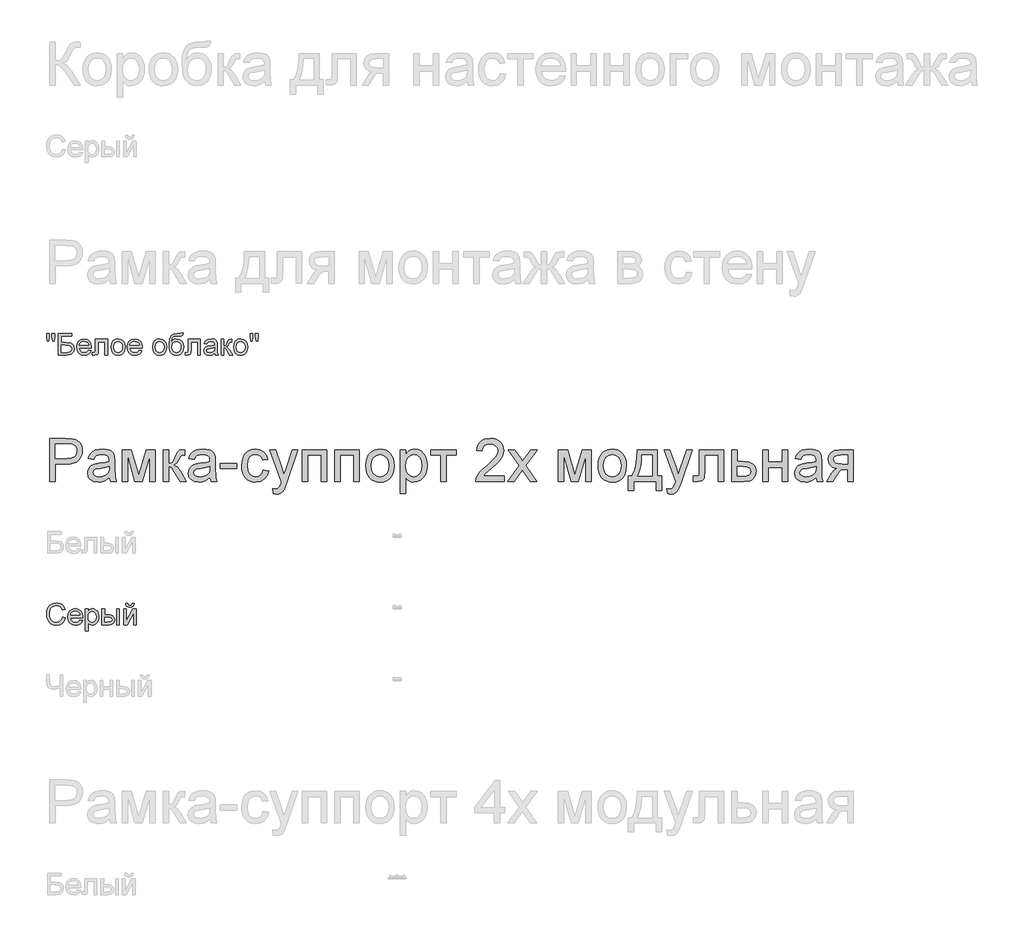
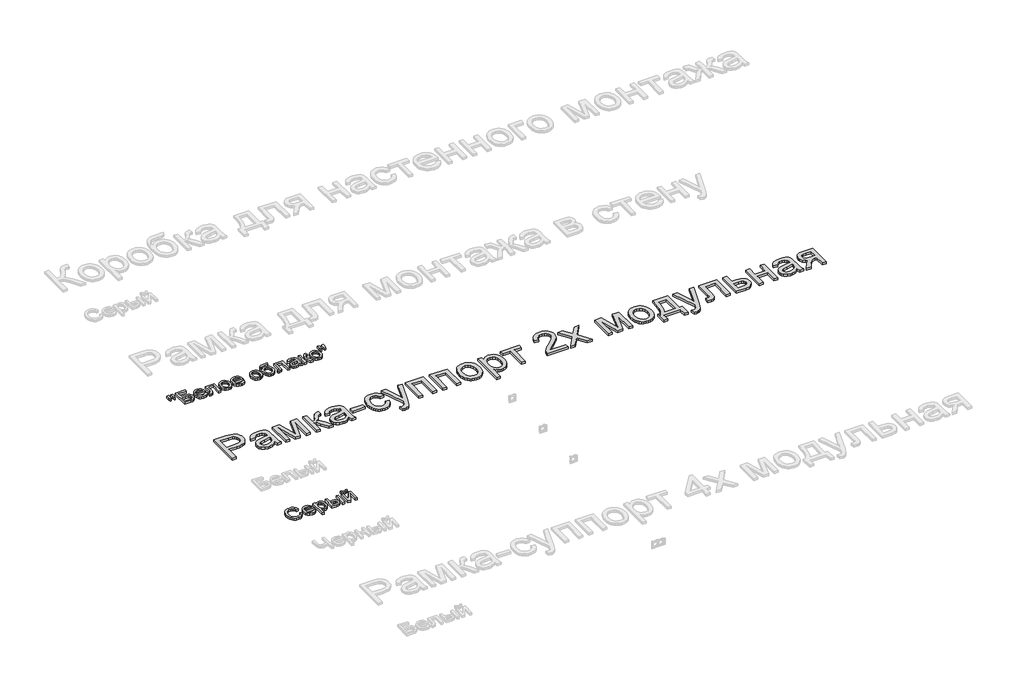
# One storey, part 44 of 168: 3 proxies.
"""IFC4 building model written with IfcOpenShell, lengths in millimetres."""

from ifc_helpers import new_model, si_unit, origin, origin_with_axes, place, context, project, spatial, polyline, outline, extrude, element, save

model = new_model("IFC4")

# Units and contexts
model_context = context("Model", 3, world=origin())
ifc_project = project(units=[si_unit("LENGTHUNIT", "METRE", prefix="MILLI")], contexts=[model_context])

# Site, building, storey
site = spatial("IfcSite", under=ifc_project)
building = spatial("IfcBuilding", under=site)
storey = spatial("IfcBuildingStorey", under=building, Name="Этаж 01", Elevation=0.0)

# Proxies
placement = place(None, origin())
element("IfcBuildingElementProxy", 1, Name="300 мм Arial 2", ObjectType="300 мм Arial 2", at=placement, inside=storey, context=model_context, shape_type="SweptSolid", body=[
    extrude(outline(polyline([(32899.0945017, -33733.1726656), (32899.0945017, -33431.8037351), (33010.7834754, -33431.8037351), (33055.8122316, -33434.6732147), (33075.8893915, -33440.0350947), (33092.4164901, -33448.7630951), (33105.7246213, -33461.2526888), (33116.1448788, -33477.8993491), (33122.8771193, -33497.5350506), (33125.1211995, -33518.991768), (33123.6059855, -33537.4916338), (33119.0603436, -33554.5107746), (33111.4842738, -33570.0491904), (33100.877776, -33584.1068811), (33086.3165468, -33595.7595433), (33066.8762826, -33604.0828734), (33042.5569835, -33609.0768715), (33013.3586494, -33610.7415376), (32936.765618, -33610.7415376), (32936.765618, -33733.1726656), (32899.0945017, -33733.1726656)]), holes=[polyline([(32936.765618, -33573.0704213), (33015.5659413, -33573.0704213), (33048.9696265, -33569.6123305), (33071.0425462, -33559.2380582), (33083.3481989, -33542.591398), (33087.4500832, -33520.3161431), (33085.0312591, -33503.3935714), (33077.7747867, -33489.11975), (33066.581977, -33478.3775957), (33052.3541408, -33472.0500254), (33014.6830245, -33469.4748514), (32936.765618, -33469.4748514), (32936.765618, -33573.0704213)])]), origin_with_axes(), (0.0, 0.0, 1.0), 20.0),
    extrude(outline(polyline([(33313.476781, -33704.9193283), (33295.4781544, -33720.351978), (33276.9460989, -33730.4503388), (33257.4575502, -33736.023751), (33236.589444, -33737.8815551), (33205.1079423, -33733.4117888), (33181.8853914, -33720.0024901), (33167.5655847, -33699.6402217), (33162.7923158, -33674.3115463), (33164.5949376, -33658.6949556), (33170.0028029, -33644.5131047), (33178.3445271, -33632.3729989), (33188.9487257, -33622.8816434), (33215.3258647, -33610.5208084), (33247.9202095, -33604.8554256), (33286.4374544, -33598.8957373), (33313.2560518, -33591.9059794), (33313.476781, -33583.5182699), (33310.883213, -33566.7060627), (33303.1025088, -33555.7063911), (33285.7016904, -33547.5394108), (33261.4582669, -33544.817084), (33239.0174652, -33546.6289028), (33223.3456922, -33552.0643593), (33212.6587202, -33562.1167348), (33205.1723216, -33577.7793108), (33167.5012053, -33573.0704213), (33174.0403078, -33552.4690295), (33183.7983777, -33536.2822217), (33197.685923, -33523.9029926), (33216.6134517, -33514.7243368), (33239.7624262, -33509.04056), (33266.3143092, -33507.1459677), (33291.7809404, -33508.8198308), (33311.9684648, -33513.84142), (33327.1895824, -33521.392198), (33337.7569927, -33530.6536272), (33344.7651447, -33542.1039543), (33349.3084874, -33556.2214259), (33351.1478973, -33589.1836526), (33351.1478973, -33636.0518188), (33353.0608837, -33701.4980258), (33360.5656764, -33733.1726656), (33322.8945601, -33733.1726656), (33313.476781, -33704.9193283)]), holes=[polyline([(33313.476781, -33629.5770957), (33252.7026754, -33641.1285904), (33220.2922716, -33647.2354315), (33205.61378, -33657.1682453), (33200.4634321, -33671.662796), (33203.2685323, -33682.8648027), (33211.683833, -33692.0434585), (33225.525393, -33698.1686937), (33244.6092715, -33700.2104388), (33264.8427813, -33697.9571616), (33282.7218462, -33691.1973299), (33297.2163968, -33681.2369249), (33307.2963635, -33669.3819276), (33311.7661297, -33657.1682453), (33313.2560518, -33640.2456736), (33313.476781, -33629.5770957)])]), origin_with_axes(), (0.0, 0.0, 1.0), 20.0),
    extrude(outline(polyline([(33402.9456823, -33511.8548573), (33467.7664898, -33511.8548573), (33517.7248647, -33689.0268261), (33571.5827888, -33511.8548573), (33633.6812696, -33511.8548573), (33633.6812696, -33733.1726656), (33596.0101533, -33733.1726656), (33596.0101533, -33554.9706271), (33541.8579236, -33733.1726656), (33492.4145835, -33733.1726656), (33440.6167986, -33546.4357648), (33440.6167986, -33733.1726656), (33402.9456823, -33733.1726656), (33402.9456823, -33511.8548573)])), origin_with_axes(), (0.0, 0.0, 1.0), 20.0),
    extrude(outline(polyline([(33690.1879441, -33511.8548573), (33727.8590604, -33511.8548573), (33727.8590604, -33606.032648), (33743.1813455, -33604.3403908), (33753.0957653, -33599.2636193), (33761.8697508, -33586.0198675), (33773.7707334, -33559.8266694), (33790.9508226, -33525.7975849), (33806.1075608, -33514.7243368), (33833.6619222, -33511.8548573), (33840.8724093, -33511.8548573), (33840.8724093, -33549.7467028), (33830.7188662, -33549.5259736), (33812.3247665, -33553.4990991), (33799.3753203, -33578.2943456), (33784.1817939, -33605.112943), (33762.8814263, -33618.2463303), (33774.8191971, -33623.5484295), (33786.6466032, -33632.9064278), (33809.9703217, -33663.7901213), (33850.2901884, -33733.1726656), (33807.4687241, -33733.1726656), (33767.9581979, -33665.2616492), (33748.0925701, -33636.5300654), (33738.8035497, -33631.3153381), (33727.8590604, -33629.5770957), (33727.8590604, -33733.1726656), (33690.1879441, -33733.1726656), (33690.1879441, -33511.8548573)])), origin_with_axes(), (0.0, 0.0, 1.0), 20.0),
    extrude(outline(polyline([(34015.1013222, -33704.9193283), (33997.1026956, -33720.351978), (33978.5706401, -33730.4503388), (33959.0820914, -33736.023751), (33938.2139852, -33737.8815551), (33906.7324835, -33733.4117888), (33883.5099326, -33720.0024901), (33869.1901259, -33699.6402217), (33864.416857, -33674.3115463), (33866.2194788, -33658.6949556), (33871.6273441, -33644.5131047), (33879.9690683, -33632.3729989), (33890.5732669, -33622.8816434), (33916.9504059, -33610.5208084), (33949.5447507, -33604.8554256), (33988.0619956, -33598.8957373), (34014.880593, -33591.9059794), (34015.1013222, -33583.5182699), (34012.5077542, -33566.7060627), (34004.72705, -33555.7063911), (33987.3262316, -33547.5394108), (33963.0828081, -33544.817084), (33940.6420064, -33546.6289028), (33924.9702334, -33552.0643593), (33914.2832614, -33562.1167348), (33906.7968628, -33577.7793108), (33869.1257465, -33573.0704213), (33875.664849, -33552.4690295), (33885.4229189, -33536.2822217), (33899.3104642, -33523.9029926), (33918.2379929, -33514.7243368), (33941.3869674, -33509.04056), (33967.9388504, -33507.1459677), (33993.4054816, -33508.8198308), (34013.593006, -33513.84142), (34028.8141236, -33521.392198), (34039.3815339, -33530.6536272), (34046.3896859, -33542.1039543), (34050.9330286, -33556.2214259), (34052.7724385, -33589.1836526), (34052.7724385, -33636.0518188), (34054.6854249, -33701.4980258), (34062.1902176, -33733.1726656), (34024.5191013, -33733.1726656), (34015.1013222, -33704.9193283)]), holes=[polyline([(34015.1013222, -33629.5770957), (33954.3272166, -33641.1285904), (33921.9168128, -33647.2354315), (33907.2383212, -33657.1682453), (33902.0879733, -33671.662796), (33904.8930735, -33682.8648027), (33913.3083742, -33692.0434585), (33927.1499342, -33698.1686937), (33946.2338127, -33700.2104388), (33966.4673225, -33697.9571616), (33984.3463874, -33691.1973299), (33998.840938, -33681.2369249), (34008.9209047, -33669.3819276), (34013.3906709, -33657.1682453), (34014.880593, -33640.2456736), (34015.1013222, -33629.5770957)])]), origin_with_axes(), (0.0, 0.0, 1.0), 20.0),
    extrude(outline(polyline([(34085.7346653, -33643.7037643), (34085.7346653, -33606.032648), (34203.4569038, -33606.032648), (34203.4569038, -33643.7037643), (34085.7346653, -33643.7037643)])), origin_with_axes(), (0.0, 0.0, 1.0), 20.0),
    extrude(outline(polyline([(34387.1035957, -33653.1215434), (34424.7747121, -33657.8304329), (34414.2716811, -33691.3352857), (34394.5348121, -33716.654764), (34367.421909, -33732.5748573), (34334.790776, -33737.8815551), (34313.6628532, -33736.0306488), (34294.7192297, -33730.4779299), (34277.9599056, -33721.2233985), (34263.3848808, -33708.2670545), (34251.587365, -33691.8526197), (34243.1605681, -33672.223816), (34238.1044899, -33649.3806434), (34236.4191305, -33623.3231018), (34239.2978071, -33589.799855), (34247.933837, -33560.7463744), (34262.4651758, -33537.2847002), (34283.0297793, -33520.5368723), (34307.6318877, -33510.4936939), (34334.2757412, -33507.1459677), (34366.1067309, -33511.7444927), (34391.5549679, -33525.5400675), (34409.8111119, -33547.7969282), (34420.0658225, -33577.7793108), (34382.3947062, -33582.4882003), (34375.5612982, -33566.0530722), (34364.9203114, -33554.2716513), (34351.0603573, -33547.1807258), (34334.5700468, -33544.817084), (34310.2254558, -33549.4707913), (34290.902454, -33563.431913), (34278.2932986, -33587.4546073), (34274.0902468, -33622.2930322), (34278.2013281, -33657.6005067), (34290.534572, -33681.7059744), (34309.5080859, -33695.5843227), (34333.5399773, -33700.2104388), (34353.04692, -33697.3225651), (34369.0405898, -33688.6589441), (34380.6748579, -33673.9988466), (34387.1035957, -33653.1215434)])), origin_with_axes(), (0.0, 0.0, 1.0), 20.0),
    extrude(outline(polyline([(34457.7369388, -33817.9326772), (34453.0280493, -33781.6595125), (34472.157913, -33784.9704505), (34490.036978, -33780.8133839), (34500.9998615, -33769.2251011), (34511.3005573, -33741.4867986), (34514.2436133, -33732.3633252), (34434.1924911, -33511.8548573), (34473.9237466, -33511.8548573), (34516.3773289, -33634.7274436), (34531.1661851, -33683.8764782), (34545.9550413, -33640.4664028), (34589.5858459, -33511.8548573), (34629.0227958, -33511.8548573), (34551.988306, -33738.4701663), (34531.9755254, -33787.6192008), (34521.7300119, -33803.3093679), (34510.1233349, -33814.1802809), (34496.6404598, -33820.5262453), (34480.7663517, -33822.6415668), (34457.7369388, -33817.9326772)])), origin_with_axes(), (0.0, 0.0, 1.0), 20.0),
    extrude(outline(polyline([(34660.219189, -33511.8548573), (34829.7392123, -33511.8548573), (34829.7392123, -33733.1726656), (34792.068096, -33733.1726656), (34792.068096, -33549.5259736), (34697.8903053, -33549.5259736), (34697.8903053, -33733.1726656), (34660.219189, -33733.1726656), (34660.219189, -33511.8548573)])), origin_with_axes(), (0.0, 0.0, 1.0), 20.0),
    extrude(outline(polyline([(34886.2458868, -33511.8548573), (35055.7659102, -33511.8548573), (35055.7659102, -33733.1726656), (35018.0947939, -33733.1726656), (35018.0947939, -33549.5259736), (34923.9170031, -33549.5259736), (34923.9170031, -33733.1726656), (34886.2458868, -33733.1726656), (34886.2458868, -33511.8548573)])), origin_with_axes(), (0.0, 0.0, 1.0), 20.0),
    extrude(outline(polyline([(35102.8548056, -33622.5137614), (35104.8919521, -33593.8511555), (35111.0033918, -33569.152478), (35121.1891245, -33548.417729), (35135.4491503, -33531.6469086), (35149.8057452, -33520.927747), (35165.6522621, -33513.2712029), (35182.9887012, -33508.6772765), (35201.8150623, -33507.1459677), (35222.5980957, -33509.0106696), (35241.3899679, -33514.6047752), (35258.1906788, -33523.9282845), (35273.0002283, -33536.9811975), (35285.0874511, -33553.3220559), (35293.7211817, -33572.5094012), (35298.9014201, -33594.5432335), (35300.6281662, -33619.4235526), (35297.5747456, -33657.480945), (35288.4144839, -33686.4516522), (35273.4140956, -33708.1474928), (35252.840295, -33724.3802859), (35228.4037335, -33734.5062378), (35201.8150623, -33737.8815551), (35180.7285262, -33736.023751), (35161.76191, -33730.4503388), (35144.9152139, -33721.1613184), (35130.1884378, -33708.1566899), (35118.2299737, -33691.6571824), (35109.6882136, -33671.8835252), (35104.5631576, -33648.8357182), (35102.8548056, -33622.5137614)]), holes=[polyline([(35140.5259219, -33622.440185), (35144.8853235, -33656.5336489), (35157.9635284, -33680.8230576), (35177.6452152, -33695.3635935), (35201.8150623, -33700.2104388), (35225.8745448, -33695.3360023), (35245.5194433, -33680.712693), (35258.5976482, -33656.1013876), (35262.9570499, -33621.2629626), (35258.5700571, -33588.1627801), (35245.4090787, -33564.2044652), (35225.736589, -33549.6639293), (35201.8150623, -33544.817084), (35177.6452152, -33549.6455352), (35157.9635284, -33564.1308888), (35144.8853235, -33588.3651152), (35140.5259219, -33622.440185)])]), origin_with_axes(), (0.0, 0.0, 1.0), 20.0),
    extrude(outline(polyline([(35343.008172, -33817.9326772), (35343.008172, -33511.8548573), (35380.6792883, -33511.8548573), (35380.6792883, -33548.7902096), (35392.966547, -33530.5708538), (35406.7253336, -33517.5570282), (35422.7649886, -33509.7487328), (35441.8948523, -33507.1459677), (35467.3706805, -33510.7879995), (35489.6459353, -33521.7140947), (35507.7825177, -33539.2620659), (35520.8423285, -33562.7697254), (35528.7333973, -33590.5264219), (35531.3637535, -33620.8215042), (35528.3931064, -33653.03877), (35519.4811651, -33681.8531272), (35504.9130381, -33705.8022451), (35484.973834, -33723.4237927), (35461.751283, -33734.2671145), (35437.3331156, -33737.8815551), (35420.0150707, -33735.462731), (35404.5548298, -33728.2062586), (35391.320275, -33717.2525722), (35380.6792883, -33703.7421059), (35380.6792883, -33817.9326772), (35343.008172, -33817.9326772)]), holes=[polyline([(35380.6792883, -33624.279595), (35384.7535814, -33658.0511621), (35396.9764607, -33681.6691862), (35415.0118755, -33695.5751256), (35436.5237752, -33700.2104388), (35458.3851628, -33695.4095787), (35476.8804301, -33681.0069986), (35489.4895854, -33656.5244519), (35493.6926372, -33621.4836918), (35489.590753, -33587.8960657), (35477.2851003, -33563.9469478), (35459.2772766, -33549.59955), (35438.0688796, -33544.817084), (35416.7777091, -33549.9030526), (35398.0801067, -33565.1609584), (35385.0294929, -33590.1125547), (35380.6792883, -33624.279595)])]), origin_with_axes(), (0.0, 0.0, 1.0), 20.0),
    extrude(outline(polyline([(35554.9082012, -33511.8548573), (35733.8460037, -33511.8548573), (35733.8460037, -33549.5259736), (35663.2126606, -33549.5259736), (35663.2126606, -33733.1726656), (35625.5415443, -33733.1726656), (35625.5415443, -33549.5259736), (35554.9082012, -33549.5259736), (35554.9082012, -33511.8548573)])), origin_with_axes(), (0.0, 0.0, 1.0), 20.0),
    extrude(outline(polyline([(36068.1771609, -33695.5015492), (36068.1771609, -33733.1726656), (35870.4038003, -33733.1726656), (35874.4505022, -33707.2001967), (35883.7395226, -33686.9023076), (35897.3327623, -33667.2114238), (35916.996055, -33646.600835), (35944.4952341, -33623.543831), (35985.1461946, -33587.4362132), (36009.5367709, -33560.7831626), (36021.732059, -33539.1517013), (36025.7971551, -33518.1088512), (36021.9619853, -33499.2457019), (36010.4564759, -33483.5647318), (35992.7705489, -33472.9973215), (35970.3941266, -33469.4748514), (35946.8956641, -33472.9145481), (35928.6395201, -33483.233638), (35916.8580992, -33499.6227809), (35912.7838061, -33521.2726363), (35875.1126898, -33516.5637468), (35884.2453604, -33480.1250352), (35892.791719, -33465.5890978), (35903.9914265, -33453.5087728), (35917.5869654, -33444.0128188), (35933.3208185, -33437.2299945), (35971.203467, -33431.8037351), (35991.3932907, -33433.3120513), (36009.3620269, -33437.8369998), (36025.1096756, -33445.3785807), (36038.6362367, -33455.936794), (36049.5002519, -33468.7298904), (36057.2602627, -33482.9761206), (36061.9162692, -33498.6754848), (36063.4682714, -33515.8279828), (36061.7944083, -33533.8450035), (36056.7728191, -33551.5493245), (36047.8608777, -33569.5571482), (36034.5159584, -33588.4846768), (36013.243182, -33611.0818284), (35980.5476697, -33640.0985208), (35937.2111706, -33676.3348973), (35920.2150224, -33695.5015492), (36068.1771609, -33695.5015492)])), origin_with_axes(), (0.0, 0.0, 1.0), 20.0),
    extrude(outline(polyline([(36091.7216086, -33733.1726656), (36172.2141891, -33621.9251502), (36096.4304981, -33511.8548573), (36141.7535599, -33511.8548573), (36178.3210303, -33564.8298646), (36195.3907548, -33589.8458402), (36210.179611, -33569.3916013), (36251.8238529, -33511.8548573), (36297.1469147, -33511.8548573), (36217.537251, -33621.9251502), (36294.2038587, -33733.1726656), (36248.8807969, -33733.1726656), (36202.7483947, -33666.2917188), (36194.2871089, -33654.0780366), (36137.0446704, -33733.1726656), (36091.7216086, -33733.1726656)])), origin_with_axes(), (0.0, 0.0, 1.0), 20.0),
    extrude(outline(polyline([(36444.888324, -33511.8548573), (36509.7091315, -33511.8548573), (36559.6675065, -33689.0268261), (36613.5254306, -33511.8548573), (36675.6239113, -33511.8548573), (36675.6239113, -33733.1726656), (36637.952795, -33733.1726656), (36637.952795, -33554.9706271), (36583.8005653, -33733.1726656), (36534.3572252, -33733.1726656), (36482.5594403, -33546.4357648), (36482.5594403, -33733.1726656), (36444.888324, -33733.1726656), (36444.888324, -33511.8548573)])), origin_with_axes(), (0.0, 0.0, 1.0), 20.0),
    extrude(outline(polyline([(36722.7128067, -33622.5137614), (36724.7499533, -33593.8511555), (36730.8613929, -33569.152478), (36741.0471257, -33548.417729), (36755.3071515, -33531.6469086), (36769.6637464, -33520.927747), (36785.5102633, -33513.2712029), (36802.8467023, -33508.6772765), (36821.6730634, -33507.1459677), (36842.4560969, -33509.0106696), (36861.2479691, -33514.6047752), (36878.0486799, -33523.9282845), (36892.8582295, -33536.9811975), (36904.9454523, -33553.3220559), (36913.5791829, -33572.5094012), (36918.7594212, -33594.5432335), (36920.4861673, -33619.4235526), (36917.4327468, -33657.480945), (36908.2724851, -33686.4516522), (36893.2720967, -33708.1474928), (36872.6982962, -33724.3802859), (36848.2617346, -33734.5062378), (36821.6730634, -33737.8815551), (36800.5865273, -33736.023751), (36781.6199112, -33730.4503388), (36764.7732151, -33721.1613184), (36750.046439, -33708.1566899), (36738.0879749, -33691.6571824), (36729.5462148, -33671.8835252), (36724.4211587, -33648.8357182), (36722.7128067, -33622.5137614)]), holes=[polyline([(36760.383923, -33622.440185), (36764.7433247, -33656.5336489), (36777.8215296, -33680.8230576), (36797.5032163, -33695.3635935), (36821.6730634, -33700.2104388), (36845.7325459, -33695.3360023), (36865.3774445, -33680.712693), (36878.4556494, -33656.1013876), (36882.815051, -33621.2629626), (36878.4280582, -33588.1627801), (36865.2670799, -33564.2044652), (36845.5945902, -33549.6639293), (36821.6730634, -33544.817084), (36797.5032163, -33549.6455352), (36777.8215296, -33564.1308888), (36764.7433247, -33588.3651152), (36760.383923, -33622.440185)])]), origin_with_axes(), (0.0, 0.0, 1.0), 20.0),
    extrude(outline(polyline([(36995.8283999, -33511.8548573), (37137.0950861, -33511.8548573), (37137.0950861, -33695.5015492), (37165.3484233, -33695.5015492), (37165.3484233, -33794.3882295), (37127.677307, -33794.3882295), (37127.677307, -33733.1726656), (36972.2839523, -33733.1726656), (36972.2839523, -33794.3882295), (36934.6128359, -33794.3882295), (36934.6128359, -33695.5015492), (36958.1572836, -33695.5015492), (36975.2729935, -33664.5718705), (36987.2567495, -33623.6541956), (36994.1085516, -33572.7485245), (36995.8283999, -33511.8548573)]), holes=[polyline([(37028.7906267, -33549.5259736), (37025.700418, -33595.6491787), (37019.9614588, -33635.352843), (37011.5737493, -33668.6369665), (37000.5372895, -33695.5015492), (37099.4239698, -33695.5015492), (37099.4239698, -33549.5259736), (37028.7906267, -33549.5259736)])]), origin_with_axes(), (0.0, 0.0, 1.0), 20.0),
    extrude(outline(polyline([(37207.7284292, -33817.9326772), (37203.0195396, -33781.6595125), (37222.1494034, -33784.9704505), (37240.0284683, -33780.8133839), (37250.9913518, -33769.2251011), (37261.2920477, -33741.4867986), (37264.2351036, -33732.3633252), (37184.1839815, -33511.8548573), (37223.915237, -33511.8548573), (37266.3688192, -33634.7274436), (37281.1576754, -33683.8764782), (37295.9465316, -33640.4664028), (37339.5773362, -33511.8548573), (37379.0142861, -33511.8548573), (37301.9797963, -33738.4701663), (37281.9670158, -33787.6192008), (37271.7215022, -33803.3093679), (37260.1148253, -33814.1802809), (37246.6319502, -33820.5262453), (37230.7578421, -33822.6415668), (37207.7284292, -33817.9326772)])), origin_with_axes(), (0.0, 0.0, 1.0), 20.0),
    extrude(outline(polyline([(37429.0462375, -33511.8548573), (37598.5662608, -33511.8548573), (37598.5662608, -33732.9519364), (37560.8951445, -33732.9519364), (37560.8951445, -33549.5259736), (37466.7173538, -33549.5259736), (37466.7173538, -33655.1081062), (37464.178968, -33703.8156823), (37459.4240932, -33714.8429451), (37450.2362404, -33724.3802859), (37436.2935128, -33730.9745706), (37417.2740136, -33733.1726656), (37386.6662316, -33731.2596792), (37386.6662316, -33695.5015492), (37403.515227, -33695.5015492), (37420.5481634, -33693.1838927), (37427.3539803, -33685.8262528), (37429.0462375, -33652.9743906), (37429.0462375, -33511.8548573)])), origin_with_axes(), (0.0, 0.0, 1.0), 20.0),
    extrude(outline(polyline([(37655.0729353, -33511.8548573), (37692.7440516, -33511.8548573), (37692.7440516, -33591.9059794), (37736.154127, -33591.9059794), (37773.7884551, -33596.624066), (37788.9359963, -33602.5216742), (37801.6371222, -33610.7783258), (37811.6803007, -33621.108912), (37818.8539996, -33633.2283245), (37824.5929587, -33662.8336281), (37819.7093252, -33689.7901813), (37805.0584247, -33712.5344856), (37793.8265276, -33721.5636893), (37779.66537, -33728.0131206), (37742.5552738, -33733.1726656), (37655.0729353, -33733.1726656), (37655.0729353, -33511.8548573)]), holes=[polyline([(37692.7440516, -33695.5015492), (37727.9135703, -33695.5015492), (37755.2012173, -33693.5241835), (37773.3469968, -33687.5920864), (37783.528131, -33677.4661344), (37786.9218424, -33662.9072045), (37784.4110478, -33650.6015517), (37776.8786639, -33639.7306388), (37760.7378414, -33632.1154815), (37732.4017307, -33629.5770957), (37692.7440516, -33629.5770957), (37692.7440516, -33695.5015492)])]), origin_with_axes(), (0.0, 0.0, 1.0), 20.0),
    extrude(outline(polyline([(37871.6818541, -33511.8548573), (37909.3529704, -33511.8548573), (37909.3529704, -33596.6148689), (38008.2396507, -33596.6148689), (38008.2396507, -33511.8548573), (38045.910767, -33511.8548573), (38045.910767, -33733.1726656), (38008.2396507, -33733.1726656), (38008.2396507, -33634.2859852), (37909.3529704, -33634.2859852), (37909.3529704, -33733.1726656), (37871.6818541, -33733.1726656), (37871.6818541, -33511.8548573)])), origin_with_axes(), (0.0, 0.0, 1.0), 20.0),
    extrude(outline(polyline([(38243.6841276, -33704.9193283), (38225.685501, -33720.351978), (38207.1534455, -33730.4503388), (38187.6648968, -33736.023751), (38166.7967906, -33737.8815551), (38135.3152889, -33733.4117888), (38112.0927379, -33720.0024901), (38097.7729312, -33699.6402217), (38092.9996624, -33674.3115463), (38094.8022841, -33658.6949556), (38100.2101495, -33644.5131047), (38108.5518737, -33632.3729989), (38119.1560722, -33622.8816434), (38145.5332113, -33610.5208084), (38178.127556, -33604.8554256), (38216.6448009, -33598.8957373), (38243.4633984, -33591.9059794), (38243.6841276, -33583.5182699), (38241.0905595, -33566.7060627), (38233.3098553, -33555.7063911), (38215.909037, -33547.5394108), (38191.6656135, -33544.817084), (38169.2248118, -33546.6289028), (38153.5530388, -33552.0643593), (38142.8660668, -33562.1167348), (38135.3796682, -33577.7793108), (38097.7085519, -33573.0704213), (38104.2476544, -33552.4690295), (38114.0057243, -33536.2822217), (38127.8932696, -33523.9029926), (38146.8207983, -33514.7243368), (38169.9697728, -33509.04056), (38196.5216558, -33507.1459677), (38221.9882869, -33508.8198308), (38242.1758114, -33513.84142), (38257.396929, -33521.392198), (38267.9643393, -33530.6536272), (38274.9724913, -33542.1039543), (38279.5158339, -33556.2214259), (38281.3552439, -33589.1836526), (38281.3552439, -33636.0518188), (38283.2682303, -33701.4980258), (38290.773023, -33733.1726656), (38253.1019067, -33733.1726656), (38243.6841276, -33704.9193283)]), holes=[polyline([(38243.6841276, -33629.5770957), (38182.910022, -33641.1285904), (38150.4996182, -33647.2354315), (38135.8211266, -33657.1682453), (38130.6707787, -33671.662796), (38133.4758789, -33682.8648027), (38141.8911795, -33692.0434585), (38155.7327396, -33698.1686937), (38174.8166181, -33700.2104388), (38195.0501278, -33697.9571616), (38212.9291928, -33691.1973299), (38227.4237434, -33681.2369249), (38237.5037101, -33669.3819276), (38241.9734763, -33657.1682453), (38243.4633984, -33640.2456736), (38243.6841276, -33629.5770957)])]), origin_with_axes(), (0.0, 0.0, 1.0), 20.0),
    extrude(outline(polyline([(38502.6730522, -33511.8548573), (38502.6730522, -33733.1726656), (38465.0019359, -33733.1726656), (38465.0019359, -33648.4126539), (38444.4741206, -33648.4126539), (38416.5150889, -33653.1951198), (38405.3498704, -33663.6245744), (38390.2483145, -33685.3480062), (38360.2291437, -33733.1726656), (38316.6719154, -33733.1726656), (38354.4901845, -33672.6928655), (38371.1920271, -33650.9878278), (38386.5694945, -33641.3493196), (38360.8177549, -33633.4582508), (38342.7179607, -33618.4670595), (38332.0125946, -33598.5278553), (38328.4441393, -33575.792748), (38333.3185757, -33550.0042202), (38347.941885, -33529.5867694), (38371.7990324, -33516.2878353), (38404.3749831, -33511.8548573), (38502.6730522, -33511.8548573)]), holes=[polyline([(38465.0019359, -33549.5259736), (38415.3378665, -33549.5259736), (38389.6872944, -33551.7056744), (38375.1283645, -33558.2447768), (38368.3685328, -33567.7085412), (38366.1152556, -33578.6622276), (38369.4353906, -33593.0188224), (38379.3957956, -33602.9792275), (38397.7990924, -33608.80096), (38426.4479028, -33610.7415376), (38465.0019359, -33610.7415376), (38465.0019359, -33549.5259736)])]), origin_with_axes(), (0.0, 0.0, 1.0), 20.0),
])
element("IfcBuildingElementProxy", 2, Name="150", ObjectType="150", at=placement, inside=storey, context=model_context, shape_type="SweptSolid", body=[
    extrude(outline(polyline([(32988.5634029, -34679.6090471), (33007.398961, -34684.4650894), (32998.7077489, -34706.4138489), (32985.0685239, -34722.4489054), (32967.1526708, -34732.2575591), (32945.631574, -34735.5271103), (32923.7839821, -34733.0531039), (32906.4337475, -34725.6310847), (32893.1348133, -34713.51857), (32883.4411228, -34696.9730772), (32877.5228212, -34677.5213167), (32875.550054, -34656.6899988), (32877.7803386, -34634.7182466), (32884.4711923, -34615.7447327), (32895.2731274, -34600.3718638), (32909.8366559, -34589.2020467), (32927.1087156, -34582.4008284), (32946.0362442, -34580.1337556), (32966.6882197, -34583.0676145), (32983.7625428, -34591.8691912), (32996.7257847, -34605.9958598), (33005.0445163, -34624.9049944), (32986.2089581, -34629.3931547), (32979.6790527, -34615.6573607), (32970.7579143, -34606.2349831), (32959.3351784, -34600.7857311), (32945.3004803, -34598.9693137), (32929.1228695, -34600.9834676), (32915.8331324, -34607.0259294), (32905.7485672, -34616.4621026), (32899.1864722, -34628.6573907), (32894.3856121, -34656.6532106), (32895.8065563, -34674.0540289), (32900.0693889, -34689.1004025), (32907.3350583, -34701.2175157), (32917.7645129, -34709.830553), (32930.2679022, -34714.9763024), (32943.7553759, -34716.6915522), (32959.4777326, -34714.3555015), (32972.5789302, -34707.3473495), (32982.4703573, -34695.7406725), (32988.5634029, -34679.6090471)])), origin_with_axes(), (0.0, 0.0, 1.0), 20.0),
    extrude(outline(polyline([(33108.4193569, -34700.2104388), (33126.8870331, -34702.5648836), (33120.2329675, -34716.48002), (33109.6149734, -34726.8818834), (33095.2721741, -34733.3658036), (33077.4436929, -34735.5271103), (33055.3431821, -34731.7977066), (33038.3378368, -34720.6094954), (33027.494515, -34702.6890437), (33023.8800744, -34678.7629185), (33027.5313032, -34654.0320513), (33038.4849896, -34635.536784), (33055.2604086, -34624.0036835), (33076.3768351, -34620.1593166), (33096.8356726, -34623.9944864), (33113.1834288, -34635.4999958), (33123.9025904, -34653.9584749), (33127.4756443, -34678.6525539), (33127.3652797, -34683.7293254), (33042.7156326, -34683.7293254), (33045.9759868, -34697.8284029), (33053.5497573, -34708.1934781), (33064.4804511, -34714.5670336), (33077.8115749, -34716.6915522), (33096.2792511, -34712.7552148), (33108.4193569, -34700.2104388)]), holes=[polyline([(33042.7156326, -34664.8937672), (33108.6400861, -34664.8937672), (33106.0925033, -34654.9425593), (33101.0985052, -34647.8240427), (33090.1172277, -34641.2021668), (33076.3032587, -34638.9948748), (33063.6067314, -34640.7561098), (33053.1082989, -34646.039815), (33045.8104399, -34654.2757732), (33042.7156326, -34664.8937672)])]), origin_with_axes(), (0.0, 0.0, 1.0), 20.0),
    extrude(outline(polyline([(33146.3112024, -34775.5526714), (33146.3112024, -34622.5137614), (33165.1467606, -34622.5137614), (33165.1467606, -34640.9814376), (33178.1697832, -34625.3648469), (33195.7545426, -34620.1593166), (33208.4924567, -34621.9803325), (33219.6300841, -34627.4433801), (33228.6983752, -34636.2173657), (33235.2282807, -34647.9711955), (33240.4889932, -34676.9970849), (33239.0036696, -34693.1057178), (33234.547699, -34707.5128964), (33227.2636355, -34719.4874553), (33217.2940334, -34728.2982291), (33205.6827579, -34733.71989), (33193.4736742, -34735.5271103), (33177.0845313, -34730.6894621), (33165.1467606, -34718.4573857), (33165.1467606, -34775.5526714), (33146.3112024, -34775.5526714)]), holes=[polyline([(33165.1467606, -34678.7261303), (33167.1839071, -34695.6119138), (33173.2953468, -34707.4209259), (33182.3130542, -34714.3738956), (33193.069004, -34716.6915522), (33203.9996978, -34714.2911222), (33213.2473314, -34707.0898321), (33219.5519091, -34694.8485587), (33221.653435, -34677.3281787), (33219.6024929, -34660.5343656), (33213.4496665, -34648.5598067), (33204.4457547, -34641.3861078), (33193.8415562, -34638.9948748), (33183.195971, -34641.5378591), (33173.8471698, -34649.166812), (33167.3218629, -34661.6426101), (33165.1467606, -34678.7261303)])]), origin_with_axes(), (0.0, 0.0, 1.0), 20.0),
    extrude(outline(polyline([(33365.2745659, -34622.5137614), (33384.1101241, -34622.5137614), (33384.1101241, -34733.1726656), (33365.2745659, -34733.1726656), (33365.2745659, -34622.5137614)])), origin_with_axes(), (0.0, 0.0, 1.0), 20.0),
    extrude(outline(polyline([(33261.6789961, -34622.5137614), (33280.5145543, -34622.5137614), (33280.5145543, -34662.5393225), (33303.8014846, -34662.5393225), (33323.9292282, -34664.8983658), (33338.8422446, -34671.9754957), (33348.0714841, -34683.200495), (33351.1478973, -34698.0031468), (33348.5681248, -34711.4814234), (33340.8288074, -34722.8535756), (33327.4241072, -34730.5928931), (33307.8481865, -34733.1726656), (33261.6789961, -34733.1726656), (33261.6789961, -34622.5137614)]), holes=[polyline([(33280.5145543, -34714.3371074), (33299.8651472, -34714.3371074), (33324.8443347, -34710.382376), (33330.4453381, -34705.3194), (33332.3123392, -34698.039935), (33326.7757152, -34686.4516522), (33317.8959635, -34682.6440735), (33302.3299566, -34681.3748806), (33280.5145543, -34681.3748806), (33280.5145543, -34714.3371074)])]), origin_with_axes(), (0.0, 0.0, 1.0), 20.0),
    extrude(outline(polyline([(33473.5790253, -34582.4882003), (33487.7056939, -34582.4882003), (33484.666069, -34594.5501312), (33478.5638264, -34603.43908), (33469.6748777, -34608.9159232), (33458.2751343, -34610.7415376), (33445.9051022, -34608.9297187), (33436.3125792, -34603.4942623), (33429.7550827, -34594.6191091), (33426.4901299, -34582.4882003), (33440.6167986, -34582.4882003), (33445.9142993, -34593.1015959), (33456.5828771, -34596.6148689), (33468.2815246, -34593.2119605), (33473.5790253, -34582.4882003)])), origin_with_axes(), (0.0, 0.0, 1.0), 20.0),
    extrude(outline(polyline([(33412.3634613, -34622.5137614), (33431.1990195, -34622.5137614), (33431.1990195, -34706.9058911), (33477.4785745, -34622.5137614), (33501.8323626, -34622.5137614), (33501.8323626, -34733.1726656), (33482.9968044, -34733.1726656), (33482.9968044, -34649.2955707), (33437.011555, -34733.1726656), (33412.3634613, -34733.1726656), (33412.3634613, -34622.5137614)])), origin_with_axes(), (0.0, 0.0, 1.0), 20.0),
])
element("IfcBuildingElementProxy", 3, Name="150", ObjectType="150", at=placement, inside=storey, context=model_context, shape_type="SweptSolid", body=[
    extrude(outline(polyline([(32880.1485789, -32753.4852461), (32875.550054, -32724.3857803), (32875.550054, -32699.3330164), (32894.3856121, -32699.3330164), (32894.3856121, -32724.3857803), (32890.2653338, -32753.4852461), (32880.1485789, -32753.4852461)])), origin_with_axes(), (0.0, 0.0, 1.0), 20.0),
    extrude(outline(polyline([(32917.7093306, -32753.4852461), (32913.2211703, -32724.3857803), (32913.2211703, -32699.3330164), (32932.0567284, -32699.3330164), (32932.0567284, -32724.3857803), (32927.6421445, -32753.4852461), (32917.7093306, -32753.4852461)])), origin_with_axes(), (0.0, 0.0, 1.0), 20.0),
    extrude(outline(polyline([(32957.9556209, -32699.3330164), (33052.1334117, -32699.3330164), (33052.1334117, -32718.1685746), (32976.791179, -32718.1685746), (32976.791179, -32762.9030252), (33012.0710624, -32762.9030252), (33043.157091, -32766.7289979), (33053.5589544, -32772.2564249), (33061.6615553, -32781.1867603), (33066.8762826, -32792.6830727), (33068.614525, -32805.9084304), (33063.6665122, -32827.3743448), (33048.8960501, -32843.6899113), (33035.6247071, -32848.4355891), (33015.4555767, -32850.0174816), (32957.9556209, -32850.0174816), (32957.9556209, -32699.3330164)]), holes=[polyline([(32976.791179, -32831.1819235), (33017.1478339, -32831.1819235), (33031.4124583, -32829.6276221), (33041.6119866, -32824.9647178), (33047.7372218, -32817.1932106), (33049.7789669, -32806.3131006), (33045.1068655, -32791.5610326), (33032.102237, -32783.6883579), (33003.7201411, -32781.7385833), (32976.791179, -32781.7385833), (32976.791179, -32831.1819235)])]), origin_with_axes(), (0.0, 0.0, 1.0), 20.0),
    extrude(outline(polyline([(33169.6349209, -32817.0552549), (33188.1025971, -32819.4096996), (33181.4485315, -32833.3248361), (33170.8305374, -32843.7266995), (33156.4877381, -32850.2106197), (33138.6592569, -32852.3719264), (33116.5587461, -32848.6425227), (33099.5534008, -32837.4543115), (33088.710079, -32819.5338598), (33085.0956384, -32795.6077346), (33088.7468672, -32770.8768674), (33099.7005536, -32752.3816001), (33116.4759726, -32740.8484996), (33137.5923991, -32737.0041327), (33158.0512366, -32740.8393025), (33174.3989927, -32752.3448119), (33185.1181544, -32770.803291), (33188.6912083, -32795.49737), (33188.5808437, -32800.5741415), (33103.9311966, -32800.5741415), (33107.1915508, -32814.673219), (33114.7653213, -32825.0382942), (33125.6960151, -32831.4118497), (33139.0271389, -32833.5363683), (33157.4948151, -32829.6000309), (33169.6349209, -32817.0552549)]), holes=[polyline([(33103.9311966, -32781.7385833), (33169.8556501, -32781.7385833), (33167.3080673, -32771.7873754), (33162.3140692, -32764.6688588), (33151.3327917, -32758.0469828), (33137.5188227, -32755.8396909), (33124.8222954, -32757.6009259), (33114.3238629, -32762.8846311), (33107.0260039, -32771.1205893), (33103.9311966, -32781.7385833)])]), origin_with_axes(), (0.0, 0.0, 1.0), 20.0),
    extrude(outline(polyline([(33216.9445455, -32739.3585775), (33301.7045572, -32739.3585775), (33301.7045572, -32849.907117), (33282.868999, -32849.907117), (33282.868999, -32758.1941356), (33235.7801036, -32758.1941356), (33235.7801036, -32810.985202), (33234.5109108, -32835.33899), (33227.539547, -32845.6212918), (33211.0584336, -32850.0174816), (33195.7545426, -32849.0609885), (33195.7545426, -32831.1819235), (33204.1790403, -32831.1819235), (33212.6955084, -32830.0230952), (33216.0984169, -32826.3442753), (33216.9445455, -32809.9183442), (33216.9445455, -32739.3585775)])), origin_with_axes(), (0.0, 0.0, 1.0), 20.0),
    extrude(outline(polyline([(33325.2490049, -32794.6880296), (33329.323298, -32768.0073879), (33341.5461773, -32749.2546032), (33356.6477332, -32740.0667503), (33374.7291332, -32737.0041327), (33394.516586, -32740.7335365), (33410.3217163, -32751.9217476), (33420.6821929, -32769.6858495), (33424.1356852, -32793.1429252), (33422.6089749, -32812.1716214), (33418.0288441, -32826.6569749), (33410.5286499, -32837.5048953), (33400.2417496, -32845.6212918), (33388.0234688, -32850.6842678), (33374.7291332, -32852.3719264), (33354.7025571, -32848.6563183), (33338.915821, -32837.5094938), (33328.6657089, -32819.3729114), (33325.2490049, -32794.6880296)]), holes=[polyline([(33344.084563, -32794.6512414), (33346.2642638, -32811.6979733), (33352.8033663, -32823.8426777), (33362.6442097, -32831.1129456), (33374.7291332, -32833.5363683), (33386.7588745, -32831.09915), (33396.5813237, -32823.7874954), (33403.1204262, -32811.4818426), (33405.300127, -32794.0626302), (33403.1066306, -32777.5125389), (33396.5261414, -32765.5333815), (33386.6898966, -32758.2631135), (33374.7291332, -32755.8396909), (33362.6442097, -32758.2539165), (33352.8033663, -32765.4965933), (33346.2642638, -32777.6137065), (33344.084563, -32794.6512414)])]), origin_with_axes(), (0.0, 0.0, 1.0), 20.0),
    extrude(outline(polyline([(33522.8016363, -32817.0552549), (33541.2693124, -32819.4096996), (33534.6152469, -32833.3248361), (33523.9972528, -32843.7266995), (33509.6544535, -32850.2106197), (33491.8259723, -32852.3719264), (33469.7254614, -32848.6425227), (33452.7201162, -32837.4543115), (33441.8767944, -32819.5338598), (33438.2623538, -32795.6077346), (33441.9135826, -32770.8768674), (33452.867269, -32752.3816001), (33469.642688, -32740.8484996), (33490.7591145, -32737.0041327), (33511.217952, -32740.8393025), (33527.5657081, -32752.3448119), (33538.2848698, -32770.803291), (33541.8579236, -32795.49737), (33541.747559, -32800.5741415), (33457.0979119, -32800.5741415), (33460.3582661, -32814.673219), (33467.9320367, -32825.0382942), (33478.8627305, -32831.4118497), (33492.1938543, -32833.5363683), (33510.6615304, -32829.6000309), (33522.8016363, -32817.0552549)]), holes=[polyline([(33457.0979119, -32781.7385833), (33523.0223655, -32781.7385833), (33520.4747827, -32771.7873754), (33515.4807846, -32764.6688588), (33504.499507, -32758.0469828), (33490.6855381, -32755.8396909), (33477.9890107, -32757.6009259), (33467.4905783, -32762.8846311), (33460.1927192, -32771.1205893), (33457.0979119, -32781.7385833)])]), origin_with_axes(), (0.0, 0.0, 1.0), 20.0),
    extrude(outline(polyline([(33614.8457115, -32794.6880296), (33618.9200046, -32768.0073879), (33631.1428839, -32749.2546032), (33646.2444398, -32740.0667503), (33664.3258398, -32737.0041327), (33684.1132926, -32740.7335365), (33699.9184229, -32751.9217476), (33710.2788995, -32769.6858495), (33713.7323918, -32793.1429252), (33712.2056815, -32812.1716214), (33707.6255507, -32826.6569749), (33700.1253565, -32837.5048953), (33689.8384562, -32845.6212918), (33677.6201754, -32850.6842678), (33664.3258398, -32852.3719264), (33644.2992637, -32848.6563183), (33628.5125276, -32837.5094938), (33618.2624155, -32819.3729114), (33614.8457115, -32794.6880296)]), holes=[polyline([(33633.6812696, -32794.6512414), (33635.8609704, -32811.6979733), (33642.4000729, -32823.8426777), (33652.2409163, -32831.1129456), (33664.3258398, -32833.5363683), (33676.3555811, -32831.09915), (33686.1780303, -32823.7874954), (33692.7171328, -32811.4818426), (33694.8968336, -32794.0626302), (33692.7033372, -32777.5125389), (33686.122848, -32765.5333815), (33676.2866032, -32758.2631135), (33664.3258398, -32755.8396909), (33652.2409163, -32758.2539165), (33642.4000729, -32765.4965933), (33635.8609704, -32777.6137065), (33633.6812696, -32794.6512414)])]), origin_with_axes(), (0.0, 0.0, 1.0), 20.0),
    extrude(outline(polyline([(33812.6190721, -32696.9785716), (33829.1001855, -32696.9785716), (33824.2441431, -32711.6754574), (33814.6424231, -32716.9913522), (33791.576222, -32718.1685746), (33760.5085875, -32722.5095821), (33753.3808738, -32728.1565707), (33748.5892108, -32736.4155215), (33744.560903, -32761.026827), (33760.8764695, -32743.0006092), (33770.7954878, -32738.5032519), (33781.9009255, -32737.0041327), (33801.4998388, -32740.8163099), (33817.401538, -32752.2528414), (33827.9413572, -32770.1916872), (33831.4546302, -32793.5108072), (33829.7117893, -32811.4910397), (33824.4832664, -32825.921211), (33807.9469707, -32845.474139), (33796.6529935, -32850.6474796), (33781.9009255, -32852.3719264), (33764.9001788, -32850.1508389), (33752.1576662, -32843.4875762), (33742.7812738, -32833.3616243), (33735.8788879, -32820.7524689), (33731.6298508, -32801.7651595), (33730.2135052, -32772.5047453), (33733.786559, -32736.3649378), (33744.5057207, -32714.3242077), (33762.6377045, -32703.0808142), (33788.449225, -32699.3330164), (33809.4184987, -32698.9099521), (33812.6190721, -32696.9785716)]), holes=[polyline([(33812.6190721, -32792.922196), (33810.577327, -32778.1011501), (33804.4520918, -32766.2323572), (33794.6112484, -32758.4378575), (33781.4226789, -32755.8396909), (33767.6730893, -32758.5850103), (33757.473561, -32766.8209684), (33751.1551877, -32779.6462545), (33749.0490633, -32796.1595575), (33751.3759169, -32812.1670229), (33758.3564778, -32823.9162541), (33768.7491442, -32831.1313397), (33781.3123143, -32833.5363683), (33793.9398638, -32830.7542607), (33803.937057, -32822.4079379), (33810.4485683, -32809.4722872), (33812.6190721, -32792.922196)])]), origin_with_axes(), (0.0, 0.0, 1.0), 20.0),
    extrude(outline(polyline([(33864.416857, -32739.3585775), (33949.1768687, -32739.3585775), (33949.1768687, -32849.907117), (33930.3413105, -32849.907117), (33930.3413105, -32758.1941356), (33883.2524152, -32758.1941356), (33883.2524152, -32810.985202), (33881.9832223, -32835.33899), (33875.0118585, -32845.6212918), (33858.5307451, -32850.0174816), (33843.2268541, -32849.0609885), (33843.2268541, -32831.1819235), (33851.6513518, -32831.1819235), (33860.16782, -32830.0230952), (33863.5707284, -32826.3442753), (33864.416857, -32809.9183442), (33864.416857, -32739.3585775)])), origin_with_axes(), (0.0, 0.0, 1.0), 20.0),
    extrude(outline(polyline([(34048.063549, -32835.890813), (34029.7982079, -32848.6563183), (34009.6198805, -32852.3719264), (33993.8791296, -32850.1370433), (33982.2678542, -32843.4323939), (33975.1079508, -32833.2512597), (33972.7213164, -32820.586922), (33976.3265599, -32805.6877012), (33985.7995213, -32794.8719706), (33998.9880908, -32788.691553), (34015.2852632, -32785.8588617), (34047.9531844, -32779.3841386), (34048.063549, -32775.1902838), (34046.766765, -32766.7841802), (34042.8764129, -32761.2843444), (34034.1760037, -32757.2008543), (34022.0542919, -32755.8396909), (34002.9980046, -32759.4633285), (33993.9113193, -32772.3208043), (33975.0757612, -32769.9663595), (33983.2243473, -32751.5722597), (33999.6318843, -32740.7933173), (34024.4823131, -32737.0041327), (34047.3093909, -32740.3518589), (34060.2036548, -32748.7579625), (34065.9794022, -32761.5418618), (34066.8991071, -32778.0229752), (34066.8991071, -32801.4570583), (34067.8556003, -32834.1801618), (34071.6079967, -32850.0174816), (34052.7724385, -32850.0174816), (34048.063549, -32835.890813)]), holes=[polyline([(34048.063549, -32798.2196967), (34017.6764962, -32803.995444), (34001.4712943, -32807.0488646), (33994.1320485, -32812.0152715), (33991.5568745, -32819.2625468), (33997.167075, -32829.4528781), (34013.6297942, -32833.5363683), (34032.6860816, -32829.0298138), (34044.9733402, -32818.1221127), (34047.9531844, -32803.5539857), (34048.063549, -32798.2196967)])]), origin_with_axes(), (0.0, 0.0, 1.0), 20.0),
    extrude(outline(polyline([(34092.7979996, -32739.3585775), (34111.6335578, -32739.3585775), (34111.6335578, -32786.4474729), (34124.2519102, -32783.0629585), (34134.5893943, -32763.3444836), (34143.1794388, -32746.3299413), (34150.7578079, -32740.7933173), (34164.5349887, -32739.3585775), (34168.1402322, -32739.3585775), (34168.1402322, -32758.3045002), (34163.0634607, -32758.1941356), (34153.8664108, -32760.1806984), (34147.3916877, -32772.5783217), (34139.7949245, -32785.9876204), (34129.1447407, -32792.554314), (34141.0273292, -32799.8843628), (34152.6891884, -32815.3262095), (34172.8491218, -32850.0174816), (34151.4383896, -32850.0174816), (34131.6831265, -32816.0619735), (34121.7503126, -32801.6961816), (34111.6335578, -32798.2196967), (34111.6335578, -32850.0174816), (34092.7979996, -32850.0174816), (34092.7979996, -32739.3585775)])), origin_with_axes(), (0.0, 0.0, 1.0), 20.0),
    extrude(outline(polyline([(34179.9124561, -32794.6880296), (34183.9867492, -32768.0073879), (34196.2096285, -32749.2546032), (34211.3111844, -32740.0667503), (34229.3925844, -32737.0041327), (34249.1800372, -32740.7335365), (34264.9851674, -32751.9217476), (34275.3456441, -32769.6858495), (34278.7991364, -32793.1429252), (34277.2724261, -32812.1716214), (34272.6922952, -32826.6569749), (34265.1921011, -32837.5048953), (34254.9052008, -32845.6212918), (34242.68692, -32850.6842678), (34229.3925844, -32852.3719264), (34209.3660083, -32848.6563183), (34193.5792722, -32837.5094938), (34183.3291601, -32819.3729114), (34179.9124561, -32794.6880296)]), holes=[polyline([(34198.7480142, -32794.6512414), (34200.927715, -32811.6979733), (34207.4668175, -32823.8426777), (34217.3076609, -32831.1129456), (34229.3925844, -32833.5363683), (34241.4223257, -32831.09915), (34251.2447749, -32823.7874954), (34257.7838774, -32811.4818426), (34259.9635782, -32794.0626302), (34257.7700818, -32777.5125389), (34251.1895926, -32765.5333815), (34241.3533478, -32758.2631135), (34229.3925844, -32755.8396909), (34217.3076609, -32758.2539165), (34207.4668175, -32765.4965933), (34200.927715, -32777.6137065), (34198.7480142, -32794.6512414)])]), origin_with_axes(), (0.0, 0.0, 1.0), 20.0),
    extrude(outline(polyline([(34299.8787747, -32753.4852461), (34295.2802498, -32724.3857803), (34295.2802498, -32699.3330164), (34314.1158079, -32699.3330164), (34314.1158079, -32724.3857803), (34309.9955296, -32753.4852461), (34299.8787747, -32753.4852461)])), origin_with_axes(), (0.0, 0.0, 1.0), 20.0),
    extrude(outline(polyline([(34337.4395264, -32753.4852461), (34332.9513661, -32724.3857803), (34332.9513661, -32699.3330164), (34351.7869242, -32699.3330164), (34351.7869242, -32724.3857803), (34347.3723403, -32753.4852461), (34337.4395264, -32753.4852461)])), origin_with_axes(), (0.0, 0.0, 1.0), 20.0),
])

save(model, "model.ifc")
